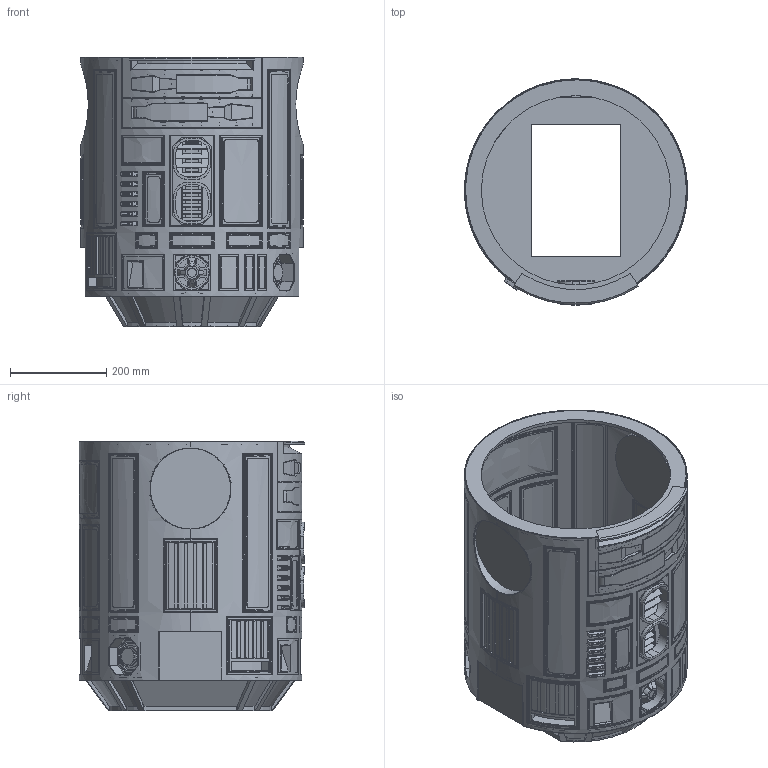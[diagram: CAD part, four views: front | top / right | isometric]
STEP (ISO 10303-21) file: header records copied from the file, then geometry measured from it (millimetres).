
FILE_DESCRIPTION(('STEP AP203'),'1');
FILE_NAME('C:/Documents and Settings/Administrator/My Documents/Dropbox/R2 Everything/R2-D2 Master/Drawings/CSR/CSR - CAD/CSR Body Assembly ESB - 20140506.stp','2014-05-22T05:39:28',(' '),(' '),'Spatial InterOp 3D',' ',' ');
FILE_SCHEMA(('CONFIG_CONTROL_DESIGN'));
Length unit declared in the file: metre
Products named in the file (142): Octogon Port 18.25; Disc; Main Housing; Back Plate - ESB; Body; Skirt Body; Part6; Skirt Assembly; Skirt Details; Part9; Power Coupler; Ear; Main; Triangle; Arc; Power Coupler Visual; Coin Slots; Part49; Center Vent Assy Top; Frame; Internals; Part2; Center Vent Assy Lower; Part1; Part7; Bottom Ring; Large Data Port; 2.0 Top; 2.0 Bottom; Large Data Port Assembly; Side Wall; Large Data Port Back; Top Ring; Side Vent; Back Panel; Side Vent Vert Bar; Pocket Vent; Coin Return - Rear Left; Part10; Coin Return - Front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
Assembly tree (174 placements, depth 6):
  Body
    Octogon Port 18.25
      Disc
      Main Housing
      Back Plate - ESB
    Skirt Assembly
      Skirt Assembly
        Skirt Body
          Part6
        Skirt Details
          Part9  x12
    Power Coupler  x2
      Power Coupler Visual
        Power Coupler
          Ear  x4
          Main
          Triangle  x4
          Arc  x4
    Coin Slots
      Part49
    Center Vent Assy Top
      Frame
      Internals
        Part2
        Part2  x2
        Part2  x4
        Part2
        Part2
        Part2
        Part2
    Center Vent Assy Lower
      Frame
      Part1
      Part7
      Part1  x4
      Part7
      Part1
    Bottom Ring
    Large Data Port Assembly
      Large Data Port
        2.0 Top
        2.0 Bottom
      Side Wall
      Side Wall
      Large Data Port Back
    Top Ring
    Side Vent
      Side Vent
      Back Panel
      Side Vent Vert Bar
    Side Vent
      Side Vent
      Back Panel
      Side Vent Vert Bar
    Pocket Vent
      Pocket Vent
      Back Panel
      Side Vent Vert Bar
    Pocket Vent
      Pocket Vent
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Bounding box: 463.55 x 469.89 x 560.39 mm (x, y, z)
Volume: 4245866.2 mm3; surface area: 3474437.1 mm2
Topology: 173 solids, 173 shells, 2440 faces, 6072 edges, 4036 vertices
Faces by surface type: plane 2017, cylinder 195, bspline 143, offset 51, cone 32, torus 2
Full cylindrical faces by diameter (mm): 3.175 x8, 6.35 x14, 15.875 x4, 19.05 x2, 24.981 x2, 29.654 x2, 34.404 x2, 35.75 x2, 38.291 x2, 46.025 x2, 69.85 x2, 168.275 x2, 171.45 x2, 393.7 x1
Entity records: 100925 total; most frequent: CARTESIAN_POINT 49647, ORIENTED_EDGE 9590, DIRECTION 7693, EDGE_CURVE 4795, VERTEX_POINT 3211, LINE 3145, VECTOR 3145, EDGE_LOOP 2320
